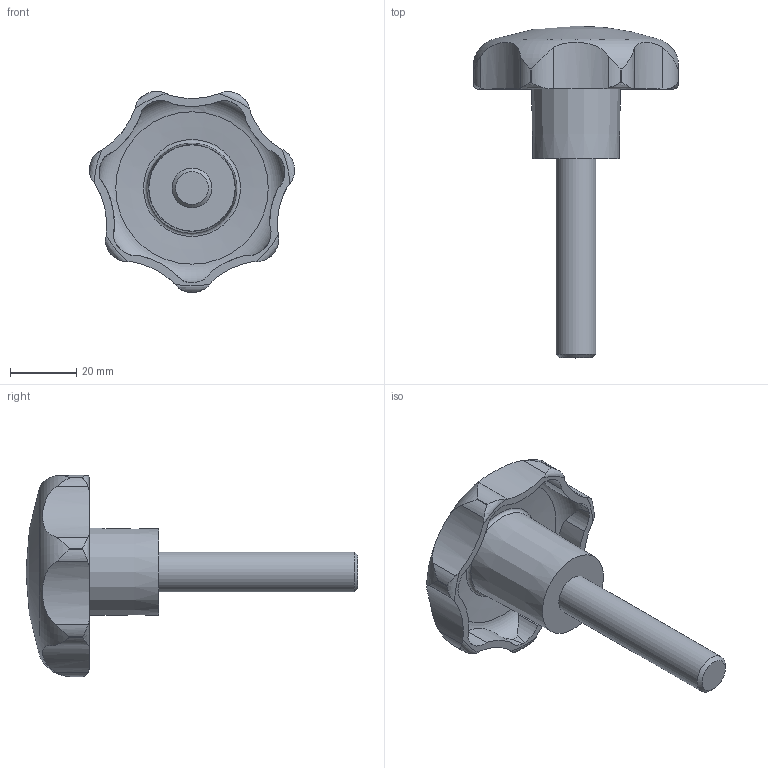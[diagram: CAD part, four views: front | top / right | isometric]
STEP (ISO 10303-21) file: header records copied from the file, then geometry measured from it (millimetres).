
FILE_DESCRIPTION( ( 'STEP AP203' ), '1' );
FILE_NAME( 'C:/Temp/Ganter_Step_05_03_2020/data/2_2/gn_6336_4/gn_6336_4_st/Star knob GN 6336.4-ST-63-M12-60.stp', '2020-03-05T12:07:46', ( 'License CC BY-ND 4.0' ), ( 'CADENAS' ), ' ', 'PARTsolutions', ' ' );
FILE_SCHEMA( ( 'CONFIG_CONTROL_DESIGN' ) );
Length unit declared in the file: millimetre
Products named in the file (1): _Star knob GN 6336.4-ST-63-M12-60
Bounding box: 61.76 x 100 x 60.57 mm (x, y, z)
Volume: 45914.7 mm3; surface area: 13955.9 mm2
Topology: 1 solids, 1 shells, 74 faces, 208 edges, 137 vertices
Faces by surface type: cylinder 50, torus 10, cone 10, plane 3, sphere 1
Full cylindrical faces by diameter (mm): 12 x1
Entity records: 3320 total; most frequent: CARTESIAN_POINT 1487, ORIENTED_EDGE 394, DIRECTION 350, EDGE_CURVE 197, AXIS2_PLACEMENT_3D 154, VERTEX_POINT 135, EDGE_LOOP 83, CIRCLE 79
